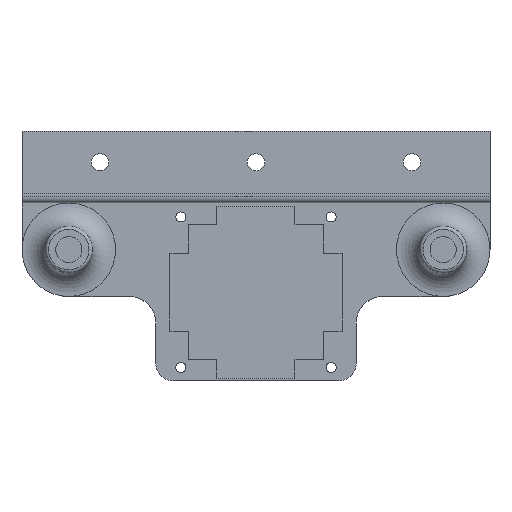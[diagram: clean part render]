
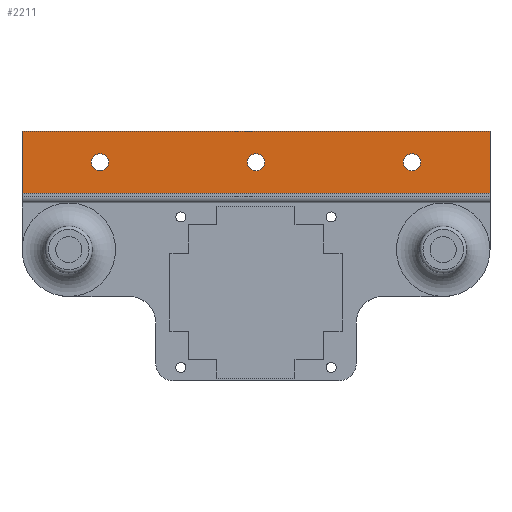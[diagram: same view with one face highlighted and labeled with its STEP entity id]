
A CAD part, top view. The second image highlights one B-rep face of the part: STEP entity #2211.
In plain terms, the highlighted planar face has unit normal (0, 0, 1).
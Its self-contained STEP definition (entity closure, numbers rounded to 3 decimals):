
#46=FACE_BOUND('',#411,.T.);
#47=FACE_BOUND('',#412,.T.);
#48=FACE_BOUND('',#413,.T.);
#141=PLANE('',#2408);
#265=FACE_OUTER_BOUND('',#410,.T.);
#410=EDGE_LOOP('',(#2051,#2052,#2053,#2054));
#411=EDGE_LOOP('',(#2055));
#412=EDGE_LOOP('',(#2056));
#413=EDGE_LOOP('',(#2057));
#424=LINE('',#3041,#669);
#623=LINE('',#3508,#868);
#655=LINE('',#3585,#900);
#664=LINE('',#3639,#909);
#669=VECTOR('',#2426,10.);
#868=VECTOR('',#2841,10.);
#900=VECTOR('',#2939,10.);
#909=VECTOR('',#3018,10.);
#931=CIRCLE('',#2299,2.75);
#933=CIRCLE('',#2303,2.75);
#935=CIRCLE('',#2307,2.75);
#974=VERTEX_POINT('',#3038);
#975=VERTEX_POINT('',#3040);
#1073=VERTEX_POINT('',#3330);
#1075=VERTEX_POINT('',#3338);
#1077=VERTEX_POINT('',#3346);
#1134=VERTEX_POINT('',#3505);
#1135=VERTEX_POINT('',#3507);
#1164=EDGE_CURVE('',#974,#975,#424,.T.);
#1310=EDGE_CURVE('',#1073,#1073,#931,.T.);
#1314=EDGE_CURVE('',#1075,#1075,#933,.T.);
#1318=EDGE_CURVE('',#1077,#1077,#935,.T.);
#1398=EDGE_CURVE('',#1134,#1135,#623,.T.);
#1436=EDGE_CURVE('',#975,#1134,#655,.T.);
#1461=EDGE_CURVE('',#1135,#974,#664,.T.);
#2051=ORIENTED_EDGE('',*,*,#1398,.F.);
#2052=ORIENTED_EDGE('',*,*,#1436,.F.);
#2053=ORIENTED_EDGE('',*,*,#1164,.F.);
#2054=ORIENTED_EDGE('',*,*,#1461,.F.);
#2055=ORIENTED_EDGE('',*,*,#1310,.T.);
#2056=ORIENTED_EDGE('',*,*,#1314,.T.);
#2057=ORIENTED_EDGE('',*,*,#1318,.T.);
#2211=ADVANCED_FACE('',(#265,#46,#47,#48),#141,.T.);
#2299=AXIS2_PLACEMENT_3D('',#3332,#2685,#2686);
#2303=AXIS2_PLACEMENT_3D('',#3340,#2695,#2696);
#2307=AXIS2_PLACEMENT_3D('',#3348,#2705,#2706);
#2408=AXIS2_PLACEMENT_3D('',#3638,#3016,#3017);
#2426=DIRECTION('',(0.,1.,0.));
#2685=DIRECTION('center_axis',(0.,0.,
-1.));
#2686=DIRECTION('ref_axis',(1.,0.,0.));
#2695=DIRECTION('center_axis',(0.,0.,
-1.));
#2696=DIRECTION('ref_axis',(1.,0.,0.));
#2705=DIRECTION('center_axis',(0.,0.,
-1.));
#2706=DIRECTION('ref_axis',(1.,0.,0.));
#2841=DIRECTION('',(0.,-1.,0.));
#2939=DIRECTION('',(1.,0.,0.));
#3016=DIRECTION('center_axis',(0.,0.,
1.));
#3017=DIRECTION('ref_axis',(0.,-1.,0.));
#3018=DIRECTION('',(-1.,0.,0.));
#3038=CARTESIAN_POINT('',(-75.,210.,0.));
#3040=CARTESIAN_POINT('',(-75.,230.,0.));
#3041=CARTESIAN_POINT('',(-75.,210.,0.));
#3330=CARTESIAN_POINT('',(-52.75,220.,0.));
#3332=CARTESIAN_POINT('Origin',(-50.,220.,0.));
#3338=CARTESIAN_POINT('',(-2.75,220.,0.));
#3340=CARTESIAN_POINT('Origin',(0.,220.,0.));
#3346=CARTESIAN_POINT('',(47.25,220.,0.));
#3348=CARTESIAN_POINT('Origin',(50.,220.,0.));
#3505=CARTESIAN_POINT('',(75.,230.,0.));
#3507=CARTESIAN_POINT('',(75.,210.,0.));
#3508=CARTESIAN_POINT('',(75.,224.25,0.));
#3585=CARTESIAN_POINT('',(-75.,230.,0.));
#3638=CARTESIAN_POINT('Origin',(-75.,230.,0.));
#3639=CARTESIAN_POINT('',(0.,210.,0.));
